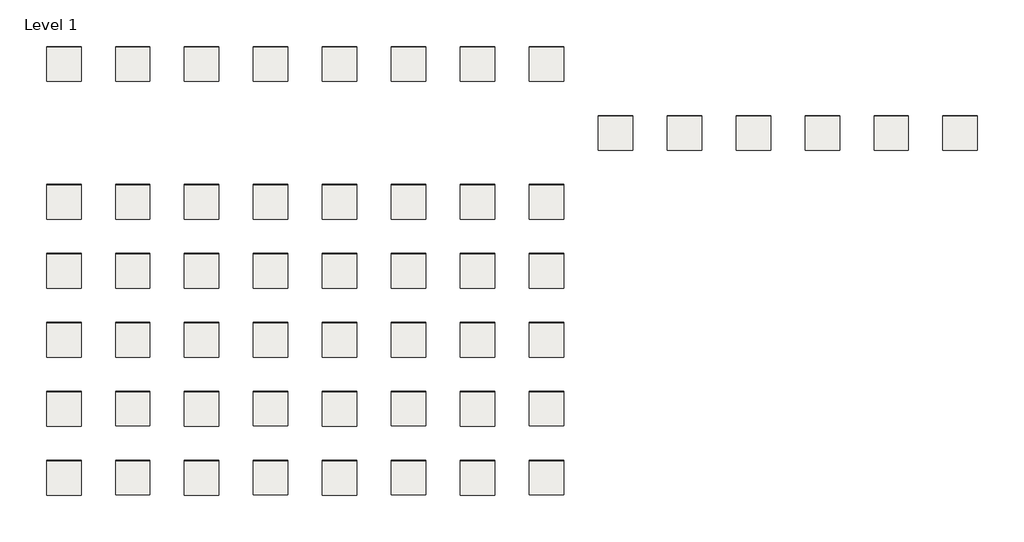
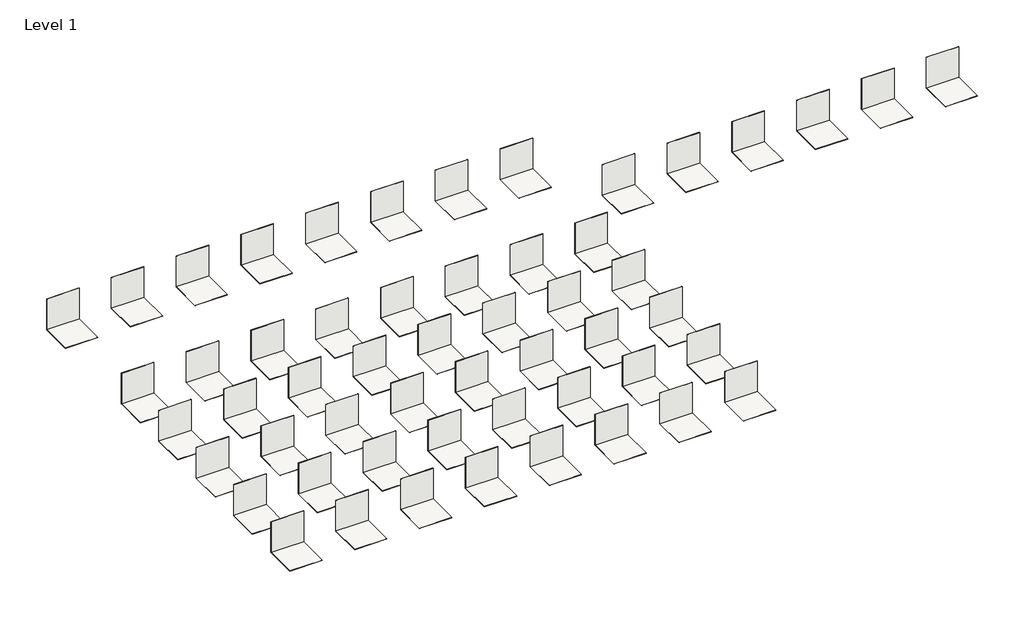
# One storey: 108 coverings.
"""IFC4 building model written with IfcOpenShell, lengths in millimetres."""

from ifc_helpers import new_model, si_unit, frame, origin, origin_with_axes, place, context, project, spatial, polyline, outline, extrude, element, save

model = new_model("IFC4")

# Units and contexts
model_context = context("Model", 3, world=origin())
ifc_project = project(units=[si_unit("LENGTHUNIT", "METRE", prefix="MILLI")], contexts=[model_context])

# Site, building, storey
site = spatial("IfcSite", under=ifc_project)
building = spatial("IfcBuilding", under=site)
storey = spatial("IfcBuildingStorey", under=building, Name="Level 1", Elevation=0.0)

# Coverings
placement = place(None, origin())
element("IfcCovering", 1, ObjectType="REVIGRES-LOCUS-BASE-9.7x9.7-SILK-ALLOY", at=placement, inside=storey, context=model_context, shape_type="SweptSolid", body=[
    extrude(outline(polyline([(2948.642714, 3103.8257974), (1948.642714, 3103.8257974), (1948.642714, 3112.3257974), (2948.642714, 3112.3257974), (2948.642714, 3103.8257974)])), origin_with_axes(), (0.0, 0.0, 1.0), 1000.0),
])
element("IfcCovering", 2, ObjectType="REVIGRES-LOCUS-BASE-9.7x9.7-SILK-BONE", at=placement, inside=storey, context=model_context, shape_type="SweptSolid", body=[
    extrude(outline(polyline([(6948.642714, 3103.8257974), (5948.642714, 3103.8257974), (5948.642714, 3112.3257974), (6948.642714, 3112.3257974), (6948.642714, 3103.8257974)])), origin_with_axes(), (0.0, 0.0, 1.0), 1000.0),
])
element("IfcCovering", 3, ObjectType="REVIGRES-LOCUS-BASE-9.7x9.7-SILK-GRIS", at=placement, inside=storey, context=model_context, shape_type="SweptSolid", body=[
    extrude(outline(polyline([(10948.642714, 3103.8257974), (9948.642714, 3103.8257974), (9948.642714, 3112.3257974), (10948.642714, 3112.3257974), (10948.642714, 3103.8257974)])), origin_with_axes(), (0.0, 0.0, 1.0), 1000.0),
])
element("IfcCovering", 4, ObjectType="REVIGRES-LOCUS-BASE-9.7x9.7-SILK-SMOG", at=placement, inside=storey, context=model_context, shape_type="SweptSolid", body=[
    extrude(outline(polyline([(14948.642714, 3103.8257974), (13948.642714, 3103.8257974), (13948.642714, 3112.3257974), (14948.642714, 3112.3257974), (14948.642714, 3103.8257974)])), origin_with_axes(), (0.0, 0.0, 1.0), 1000.0),
])
element("IfcCovering", 5, ObjectType="REVIGRES-LOCUS-BASE-9.7x9.7-SOFT GRIP-ALLOY", at=placement, inside=storey, context=model_context, shape_type="SweptSolid", body=[
    extrude(outline(polyline([(4948.642714, 3108.0757974), (4948.642714, 2108.0757974), (3948.642714, 2108.0757974), (3948.642714, 3108.0757974), (4948.642714, 3108.0757974)])), frame((0.0, 0.0, -8.5), z_axis=(0.0, 0.0, 1.0), x_axis=(1.0, 0.0, 0.0)), (0.0, 0.0, 1.0), 8.5),
])
element("IfcCovering", 6, ObjectType="REVIGRES-LOCUS-BASE-9.7x9.7-SOFT GRIP-ALLOY", at=placement, inside=storey, context=model_context, shape_type="SweptSolid", body=[
    extrude(outline(polyline([(4948.642714, 3103.8257974), (3948.642714, 3103.8257974), (3948.642714, 3112.3257974), (4948.642714, 3112.3257974), (4948.642714, 3103.8257974)])), origin_with_axes(), (0.0, 0.0, 1.0), 1000.0),
])
element("IfcCovering", 7, ObjectType="REVIGRES-LOCUS-BASE-9.7x9.7-SOFT GRIP-BONE", at=placement, inside=storey, context=model_context, shape_type="SweptSolid", body=[
    extrude(outline(polyline([(8948.642714, 3108.0757974), (8948.642714, 2108.0757974), (7948.642714, 2108.0757974), (7948.642714, 3108.0757974), (8948.642714, 3108.0757974)])), frame((0.0, 0.0, -8.5), z_axis=(0.0, 0.0, 1.0), x_axis=(1.0, 0.0, 0.0)), (0.0, 0.0, 1.0), 8.5),
])
element("IfcCovering", 8, ObjectType="REVIGRES-LOCUS-BASE-9.7x9.7-SOFT GRIP-BONE", at=placement, inside=storey, context=model_context, shape_type="SweptSolid", body=[
    extrude(outline(polyline([(8948.642714, 3103.8257974), (7948.642714, 3103.8257974), (7948.642714, 3112.3257974), (8948.642714, 3112.3257974), (8948.642714, 3103.8257974)])), origin_with_axes(), (0.0, 0.0, 1.0), 1000.0),
])
element("IfcCovering", 9, ObjectType="REVIGRES-LOCUS-BASE-9.7x9.7-SOFT GRIP-GRIS", at=placement, inside=storey, context=model_context, shape_type="SweptSolid", body=[
    extrude(outline(polyline([(12948.642714, 3108.0757974), (12948.642714, 2108.0757974), (11948.642714, 2108.0757974), (11948.642714, 3108.0757974), (12948.642714, 3108.0757974)])), frame((0.0, 0.0, -8.5), z_axis=(0.0, 0.0, 1.0), x_axis=(1.0, 0.0, 0.0)), (0.0, 0.0, 1.0), 8.5),
])
element("IfcCovering", 10, ObjectType="REVIGRES-LOCUS-BASE-9.7x9.7-SOFT GRIP-GRIS", at=placement, inside=storey, context=model_context, shape_type="SweptSolid", body=[
    extrude(outline(polyline([(12948.642714, 3103.8257974), (11948.642714, 3103.8257974), (11948.642714, 3112.3257974), (12948.642714, 3112.3257974), (12948.642714, 3103.8257974)])), origin_with_axes(), (0.0, 0.0, 1.0), 1000.0),
])
element("IfcCovering", 11, ObjectType="REVIGRES-LOCUS-BASE-9.7x9.7-SOFT GRIP-SMOG", at=placement, inside=storey, context=model_context, shape_type="SweptSolid", body=[
    extrude(outline(polyline([(16948.642714, 3108.0757974), (16948.642714, 2108.0757974), (15948.642714, 2108.0757974), (15948.642714, 3108.0757974), (16948.642714, 3108.0757974)])), frame((0.0, 0.0, -8.5), z_axis=(0.0, 0.0, 1.0), x_axis=(1.0, 0.0, 0.0)), (0.0, 0.0, 1.0), 8.5),
])
element("IfcCovering", 12, ObjectType="REVIGRES-LOCUS-BASE-9.7x9.7-SOFT GRIP-SMOG", at=placement, inside=storey, context=model_context, shape_type="SweptSolid", body=[
    extrude(outline(polyline([(16948.642714, 3103.8257974), (15948.642714, 3103.8257974), (15948.642714, 3112.3257974), (16948.642714, 3112.3257974), (16948.642714, 3103.8257974)])), origin_with_axes(), (0.0, 0.0, 1.0), 1000.0),
])
element("IfcCovering", 13, ObjectType="REVIGRES-LOCUS-BASE-9.7x9.7-SILK-ALLOY", at=placement, inside=storey, context=model_context, shape_type="SweptSolid", body=[
    extrude(outline(polyline([(2948.642714, 3103.8257974), (2948.642714, 2103.8257974), (1948.642714, 2103.8257974), (1948.642714, 3103.8257974), (2948.642714, 3103.8257974)])), frame((0.0, 0.0, -8.5), z_axis=(0.0, 0.0, 1.0), x_axis=(1.0, 0.0, 0.0)), (0.0, 0.0, 1.0), 8.5),
])
element("IfcCovering", 14, ObjectType="REVIGRES-LOCUS-BASE-9.7x9.7-SILK-BONE", at=placement, inside=storey, context=model_context, shape_type="SweptSolid", body=[
    extrude(outline(polyline([(6948.642714, 3103.8257974), (6948.642714, 2103.8257974), (5948.642714, 2103.8257974), (5948.642714, 3103.8257974), (6948.642714, 3103.8257974)])), frame((0.0, 0.0, -8.5), z_axis=(0.0, 0.0, 1.0), x_axis=(1.0, 0.0, 0.0)), (0.0, 0.0, 1.0), 8.5),
])
element("IfcCovering", 15, ObjectType="REVIGRES-LOCUS-BASE-9.7x9.7-SILK-GRIS", at=placement, inside=storey, context=model_context, shape_type="SweptSolid", body=[
    extrude(outline(polyline([(10948.642714, 3103.8257974), (10948.642714, 2103.8257974), (9948.642714, 2103.8257974), (9948.642714, 3103.8257974), (10948.642714, 3103.8257974)])), frame((0.0, 0.0, -8.5), z_axis=(0.0, 0.0, 1.0), x_axis=(1.0, 0.0, 0.0)), (0.0, 0.0, 1.0), 8.5),
])
element("IfcCovering", 16, ObjectType="REVIGRES-LOCUS-BASE-9.7x9.7-SILK-SMOG", at=placement, inside=storey, context=model_context, shape_type="SweptSolid", body=[
    extrude(outline(polyline([(14948.642714, 3103.8257974), (14948.642714, 2103.8257974), (13948.642714, 2103.8257974), (13948.642714, 3103.8257974), (14948.642714, 3103.8257974)])), frame((0.0, 0.0, -8.5), z_axis=(0.0, 0.0, 1.0), x_axis=(1.0, 0.0, 0.0)), (0.0, 0.0, 1.0), 8.5),
])
element("IfcCovering", 17, ObjectType="REVIGRES-LOCUS-BASE-29.5x59.2-SILK-ALLOY", at=placement, inside=storey, context=model_context, shape_type="SweptSolid", body=[
    extrude(outline(polyline([(2948.642714, -896.1742026), (1948.642714, -896.1742026), (1948.642714, -887.6742026), (2948.642714, -887.6742026), (2948.642714, -896.1742026)])), origin_with_axes(), (0.0, 0.0, 1.0), 1000.0),
])
element("IfcCovering", 18, ObjectType="REVIGRES-LOCUS-BASE-29.5x59.2-SOFT GRIP-ALLOY", at=placement, inside=storey, context=model_context, shape_type="SweptSolid", body=[
    extrude(outline(polyline([(4948.642714, -891.9242026), (4948.642714, -1891.9242026), (3948.642714, -1891.9242026), (3948.642714, -891.9242026), (4948.642714, -891.9242026)])), frame((0.0, 0.0, -8.5), z_axis=(0.0, 0.0, 1.0), x_axis=(1.0, 0.0, 0.0)), (0.0, 0.0, 1.0), 8.5),
])
element("IfcCovering", 19, ObjectType="REVIGRES-LOCUS-BASE-29.5x59.2-SOFT GRIP-ALLOY", at=placement, inside=storey, context=model_context, shape_type="SweptSolid", body=[
    extrude(outline(polyline([(4948.642714, -896.1742026), (3948.642714, -896.1742026), (3948.642714, -887.6742026), (4948.642714, -887.6742026), (4948.642714, -896.1742026)])), origin_with_axes(), (0.0, 0.0, 1.0), 1000.0),
])
element("IfcCovering", 20, ObjectType="REVIGRES-LOCUS-BASE-29.5x59.2-SILK-ALLOY", at=placement, inside=storey, context=model_context, shape_type="SweptSolid", body=[
    extrude(outline(polyline([(2948.642714, -896.1742026), (2948.642714, -1896.1742026), (1948.642714, -1896.1742026), (1948.642714, -896.1742026), (2948.642714, -896.1742026)])), frame((0.0, 0.0, -8.5), z_axis=(0.0, 0.0, 1.0), x_axis=(1.0, 0.0, 0.0)), (0.0, 0.0, 1.0), 8.5),
])
element("IfcCovering", 21, ObjectType="REVIGRES-LOCUS-BASE-59.2x59.2-SILK-ALLOY", at=placement, inside=storey, context=model_context, shape_type="SweptSolid", body=[
    extrude(outline(polyline([(2948.642714, -2896.1742026), (1948.642714, -2896.1742026), (1948.642714, -2887.6742026), (2948.642714, -2887.6742026), (2948.642714, -2896.1742026)])), origin_with_axes(), (0.0, 0.0, 1.0), 1000.0),
])
element("IfcCovering", 22, ObjectType="REVIGRES-LOCUS-BASE-59.2x59.2-SOFT GRIP-ALLOY", at=placement, inside=storey, context=model_context, shape_type="SweptSolid", body=[
    extrude(outline(polyline([(4948.642714, -2891.9242026), (4948.642714, -3891.9242026), (3948.642714, -3891.9242026), (3948.642714, -2891.9242026), (4948.642714, -2891.9242026)])), frame((0.0, 0.0, -8.5), z_axis=(0.0, 0.0, 1.0), x_axis=(1.0, 0.0, 0.0)), (0.0, 0.0, 1.0), 8.5),
])
element("IfcCovering", 23, ObjectType="REVIGRES-LOCUS-BASE-59.2x59.2-SOFT GRIP-ALLOY", at=placement, inside=storey, context=model_context, shape_type="SweptSolid", body=[
    extrude(outline(polyline([(4948.642714, -2896.1742026), (3948.642714, -2896.1742026), (3948.642714, -2887.6742026), (4948.642714, -2887.6742026), (4948.642714, -2896.1742026)])), origin_with_axes(), (0.0, 0.0, 1.0), 1000.0),
])
element("IfcCovering", 24, ObjectType="REVIGRES-LOCUS-BASE-59.2x59.2-SILK-ALLOY", at=placement, inside=storey, context=model_context, shape_type="SweptSolid", body=[
    extrude(outline(polyline([(2948.642714, -2896.1742026), (2948.642714, -3896.1742026), (1948.642714, -3896.1742026), (1948.642714, -2896.1742026), (2948.642714, -2896.1742026)])), frame((0.0, 0.0, -8.5), z_axis=(0.0, 0.0, 1.0), x_axis=(1.0, 0.0, 0.0)), (0.0, 0.0, 1.0), 8.5),
])
element("IfcCovering", 25, ObjectType="REVIGRES-LOCUS-BASE-44.35x88.9-SILK-ALLOY", at=placement, inside=storey, context=model_context, shape_type="SweptSolid", body=[
    extrude(outline(polyline([(2948.642714, -4897.1742026), (1948.642714, -4897.1742026), (1948.642714, -4886.6742026), (2948.642714, -4886.6742026), (2948.642714, -4897.1742026)])), origin_with_axes(), (0.0, 0.0, 1.0), 1000.0),
])
element("IfcCovering", 26, ObjectType="REVIGRES-LOCUS-BASE-44.35x88.9-SOFT GRIP-ALLOY", at=placement, inside=storey, context=model_context, shape_type="SweptSolid", body=[
    extrude(outline(polyline([(4948.642714, -4891.9242026), (4948.642714, -5891.9242026), (3948.642714, -5891.9242026), (3948.642714, -4891.9242026), (4948.642714, -4891.9242026)])), frame((0.0, 0.0, -10.5), z_axis=(0.0, 0.0, 1.0), x_axis=(1.0, 0.0, 0.0)), (0.0, 0.0, 1.0), 10.5),
])
element("IfcCovering", 27, ObjectType="REVIGRES-LOCUS-BASE-44.35x88.9-SOFT GRIP-ALLOY", at=placement, inside=storey, context=model_context, shape_type="SweptSolid", body=[
    extrude(outline(polyline([(4948.642714, -4897.1742026), (3948.642714, -4897.1742026), (3948.642714, -4886.6742026), (4948.642714, -4886.6742026), (4948.642714, -4897.1742026)])), origin_with_axes(), (0.0, 0.0, 1.0), 1000.0),
])
element("IfcCovering", 28, ObjectType="REVIGRES-LOCUS-BASE-44.35x88.9-SILK-ALLOY", at=placement, inside=storey, context=model_context, shape_type="SweptSolid", body=[
    extrude(outline(polyline([(2948.642714, -4897.1742026), (2948.642714, -5896.1742026), (1948.642714, -5896.1742026), (1948.642714, -4897.1742026), (2948.642714, -4897.1742026)])), frame((0.0, 0.0, -10.5), z_axis=(0.0, 0.0, 1.0), x_axis=(1.0, 0.0, 0.0)), (0.0, 0.0, 1.0), 10.5),
])
element("IfcCovering", 29, ObjectType="REVIGRES-LOCUS-BASE-29.5x59.2-SILK-BONE", at=placement, inside=storey, context=model_context, shape_type="SweptSolid", body=[
    extrude(outline(polyline([(6948.642714, -896.1742026), (5948.642714, -896.1742026), (5948.642714, -887.6742026), (6948.642714, -887.6742026), (6948.642714, -896.1742026)])), origin_with_axes(), (0.0, 0.0, 1.0), 1000.0),
])
element("IfcCovering", 30, ObjectType="REVIGRES-LOCUS-BASE-29.5x59.20-SOFT GRIP-BONE", at=placement, inside=storey, context=model_context, shape_type="SweptSolid", body=[
    extrude(outline(polyline([(8948.642714, -891.9242026), (8948.642714, -1891.9242026), (7948.642714, -1891.9242026), (7948.642714, -891.9242026), (8948.642714, -891.9242026)])), frame((0.0, 0.0, -8.5), z_axis=(0.0, 0.0, 1.0), x_axis=(1.0, 0.0, 0.0)), (0.0, 0.0, 1.0), 8.5),
])
element("IfcCovering", 31, ObjectType="REVIGRES-LOCUS-BASE-29.5x59.2-SOFT GRIP-BONE", at=placement, inside=storey, context=model_context, shape_type="SweptSolid", body=[
    extrude(outline(polyline([(8948.642714, -896.1742026), (7948.642714, -896.1742026), (7948.642714, -887.6742026), (8948.642714, -887.6742026), (8948.642714, -896.1742026)])), origin_with_axes(), (0.0, 0.0, 1.0), 1000.0),
])
element("IfcCovering", 32, ObjectType="REVIGRES-LOCUS-BASE-29.5x59.2-SILK-BONE", at=placement, inside=storey, context=model_context, shape_type="SweptSolid", body=[
    extrude(outline(polyline([(6948.642714, -896.1742026), (6948.642714, -1896.1742026), (5948.642714, -1896.1742026), (5948.642714, -896.1742026), (6948.642714, -896.1742026)])), frame((0.0, 0.0, -8.5), z_axis=(0.0, 0.0, 1.0), x_axis=(1.0, 0.0, 0.0)), (0.0, 0.0, 1.0), 8.5),
])
element("IfcCovering", 33, ObjectType="REVIGRES-LOCUS-BASE-59.2x59.2-SILK-BONE", at=placement, inside=storey, context=model_context, shape_type="SweptSolid", body=[
    extrude(outline(polyline([(6948.642714, -2896.1742026), (5948.642714, -2896.1742026), (5948.642714, -2887.6742026), (6948.642714, -2887.6742026), (6948.642714, -2896.1742026)])), origin_with_axes(), (0.0, 0.0, 1.0), 1000.0),
])
element("IfcCovering", 34, ObjectType="REVIGRES-LOCUS-BASE-59.2x59.2-SOFT GRIP-BONE", at=placement, inside=storey, context=model_context, shape_type="SweptSolid", body=[
    extrude(outline(polyline([(8948.642714, -2891.9242026), (8948.642714, -3891.9242026), (7948.642714, -3891.9242026), (7948.642714, -2891.9242026), (8948.642714, -2891.9242026)])), frame((0.0, 0.0, -8.5), z_axis=(0.0, 0.0, 1.0), x_axis=(1.0, 0.0, 0.0)), (0.0, 0.0, 1.0), 8.5),
])
element("IfcCovering", 35, ObjectType="REVIGRES-LOCUS-BASE-59.2x59.2-SOFT GRIP-BONE", at=placement, inside=storey, context=model_context, shape_type="SweptSolid", body=[
    extrude(outline(polyline([(8948.642714, -2896.1742026), (7948.642714, -2896.1742026), (7948.642714, -2887.6742026), (8948.642714, -2887.6742026), (8948.642714, -2896.1742026)])), origin_with_axes(), (0.0, 0.0, 1.0), 1000.0),
])
element("IfcCovering", 36, ObjectType="REVIGRES-LOCUS-BASE-59.2x59.2-SILK-BONE", at=placement, inside=storey, context=model_context, shape_type="SweptSolid", body=[
    extrude(outline(polyline([(6948.642714, -2896.1742026), (6948.642714, -3896.1742026), (5948.642714, -3896.1742026), (5948.642714, -2896.1742026), (6948.642714, -2896.1742026)])), frame((0.0, 0.0, -8.5), z_axis=(0.0, 0.0, 1.0), x_axis=(1.0, 0.0, 0.0)), (0.0, 0.0, 1.0), 8.5),
])
element("IfcCovering", 37, ObjectType="REVIGRES-LOCUS-BASE-44.35x88.9-SILK-BONE", at=placement, inside=storey, context=model_context, shape_type="SweptSolid", body=[
    extrude(outline(polyline([(6948.642714, -4897.1742026), (5948.642714, -4897.1742026), (5948.642714, -4886.6742026), (6948.642714, -4886.6742026), (6948.642714, -4897.1742026)])), origin_with_axes(), (0.0, 0.0, 1.0), 1000.0),
])
element("IfcCovering", 38, ObjectType="REVIGRES-LOCUS-BASE-44.35x88.9-SOFT GRIP-BONE", at=placement, inside=storey, context=model_context, shape_type="SweptSolid", body=[
    extrude(outline(polyline([(8948.642714, -4891.9242026), (8948.642714, -5891.9242026), (7948.642714, -5891.9242026), (7948.642714, -4891.9242026), (8948.642714, -4891.9242026)])), frame((0.0, 0.0, -10.5), z_axis=(0.0, 0.0, 1.0), x_axis=(1.0, 0.0, 0.0)), (0.0, 0.0, 1.0), 10.5),
])
element("IfcCovering", 39, ObjectType="REVIGRES-LOCUS-BASE-44.35x88.9-SOFT GRIP-BONE", at=placement, inside=storey, context=model_context, shape_type="SweptSolid", body=[
    extrude(outline(polyline([(8948.642714, -4897.1742026), (7948.642714, -4897.1742026), (7948.642714, -4886.6742026), (8948.642714, -4886.6742026), (8948.642714, -4897.1742026)])), origin_with_axes(), (0.0, 0.0, 1.0), 1000.0),
])
element("IfcCovering", 40, ObjectType="REVIGRES-LOCUS-BASE-44.35x88.9-SILK-BONE", at=placement, inside=storey, context=model_context, shape_type="SweptSolid", body=[
    extrude(outline(polyline([(6948.642714, -4897.1742026), (6948.642714, -5896.1742026), (5948.642714, -5896.1742026), (5948.642714, -4897.1742026), (6948.642714, -4897.1742026)])), frame((0.0, 0.0, -10.5), z_axis=(0.0, 0.0, 1.0), x_axis=(1.0, 0.0, 0.0)), (0.0, 0.0, 1.0), 10.5),
])
element("IfcCovering", 41, ObjectType="REVIGRES-LOCUS-BASE-29.5x59.2-SILK-GRIS", at=placement, inside=storey, context=model_context, shape_type="SweptSolid", body=[
    extrude(outline(polyline([(10948.642714, -896.1742026), (9948.642714, -896.1742026), (9948.642714, -887.6742026), (10948.642714, -887.6742026), (10948.642714, -896.1742026)])), origin_with_axes(), (0.0, 0.0, 1.0), 1000.0),
])
element("IfcCovering", 42, ObjectType="REVIGRES-LOCUS-BASE-29.5x59.20-SOFT GRIP-GRIS", at=placement, inside=storey, context=model_context, shape_type="SweptSolid", body=[
    extrude(outline(polyline([(12948.642714, -891.9242026), (12948.642714, -1891.9242026), (11948.642714, -1891.9242026), (11948.642714, -891.9242026), (12948.642714, -891.9242026)])), frame((0.0, 0.0, -8.5), z_axis=(0.0, 0.0, 1.0), x_axis=(1.0, 0.0, 0.0)), (0.0, 0.0, 1.0), 8.5),
])
element("IfcCovering", 43, ObjectType="REVIGRES-LOCUS-BASE-29.5x59.2-SOFT GRIP-GRIS", at=placement, inside=storey, context=model_context, shape_type="SweptSolid", body=[
    extrude(outline(polyline([(12948.642714, -896.1742026), (11948.642714, -896.1742026), (11948.642714, -887.6742026), (12948.642714, -887.6742026), (12948.642714, -896.1742026)])), origin_with_axes(), (0.0, 0.0, 1.0), 1000.0),
])
element("IfcCovering", 44, ObjectType="REVIGRES-LOCUS-BASE-29.5x59.2-SILK-GRIS", at=placement, inside=storey, context=model_context, shape_type="SweptSolid", body=[
    extrude(outline(polyline([(10948.642714, -896.1742026), (10948.642714, -1896.1742026), (9948.642714, -1896.1742026), (9948.642714, -896.1742026), (10948.642714, -896.1742026)])), frame((0.0, 0.0, -8.5), z_axis=(0.0, 0.0, 1.0), x_axis=(1.0, 0.0, 0.0)), (0.0, 0.0, 1.0), 8.5),
])
element("IfcCovering", 45, ObjectType="REVIGRES-LOCUS-BASE-59.2x59.2-SILK-GRIS", at=placement, inside=storey, context=model_context, shape_type="SweptSolid", body=[
    extrude(outline(polyline([(10948.642714, -2896.1742026), (9948.642714, -2896.1742026), (9948.642714, -2887.6742026), (10948.642714, -2887.6742026), (10948.642714, -2896.1742026)])), origin_with_axes(), (0.0, 0.0, 1.0), 1000.0),
])
element("IfcCovering", 46, ObjectType="REVIGRES-LOCUS-BASE-59.2x59.2-SOFT GRIP-GRIS", at=placement, inside=storey, context=model_context, shape_type="SweptSolid", body=[
    extrude(outline(polyline([(12948.642714, -2891.9242026), (12948.642714, -3891.9242026), (11948.642714, -3891.9242026), (11948.642714, -2891.9242026), (12948.642714, -2891.9242026)])), frame((0.0, 0.0, -8.5), z_axis=(0.0, 0.0, 1.0), x_axis=(1.0, 0.0, 0.0)), (0.0, 0.0, 1.0), 8.5),
])
element("IfcCovering", 47, ObjectType="REVIGRES-LOCUS-BASE-59.2x59.2-SOFT GRIP-GRIS", at=placement, inside=storey, context=model_context, shape_type="SweptSolid", body=[
    extrude(outline(polyline([(12948.642714, -2896.1742026), (11948.642714, -2896.1742026), (11948.642714, -2887.6742026), (12948.642714, -2887.6742026), (12948.642714, -2896.1742026)])), origin_with_axes(), (0.0, 0.0, 1.0), 1000.0),
])
element("IfcCovering", 48, ObjectType="REVIGRES-LOCUS-BASE-59.2x59.2-SILK-GRIS", at=placement, inside=storey, context=model_context, shape_type="SweptSolid", body=[
    extrude(outline(polyline([(10948.642714, -2896.1742026), (10948.642714, -3896.1742026), (9948.642714, -3896.1742026), (9948.642714, -2896.1742026), (10948.642714, -2896.1742026)])), frame((0.0, 0.0, -8.5), z_axis=(0.0, 0.0, 1.0), x_axis=(1.0, 0.0, 0.0)), (0.0, 0.0, 1.0), 8.5),
])
element("IfcCovering", 49, ObjectType="REVIGRES-LOCUS-BASE-44.35x88.9-SILK-GRIS", at=placement, inside=storey, context=model_context, shape_type="SweptSolid", body=[
    extrude(outline(polyline([(10948.642714, -4897.1742026), (9948.642714, -4897.1742026), (9948.642714, -4886.6742026), (10948.642714, -4886.6742026), (10948.642714, -4897.1742026)])), origin_with_axes(), (0.0, 0.0, 1.0), 1000.0),
])
element("IfcCovering", 50, ObjectType="REVIGRES-LOCUS-BASE-44.35x88.9-SOFT GRIP-GRIS", at=placement, inside=storey, context=model_context, shape_type="SweptSolid", body=[
    extrude(outline(polyline([(12948.642714, -4891.9242026), (12948.642714, -5891.9242026), (11948.642714, -5891.9242026), (11948.642714, -4891.9242026), (12948.642714, -4891.9242026)])), frame((0.0, 0.0, -10.5), z_axis=(0.0, 0.0, 1.0), x_axis=(1.0, 0.0, 0.0)), (0.0, 0.0, 1.0), 10.5),
])
element("IfcCovering", 51, ObjectType="REVIGRES-LOCUS-BASE-44.35x88.9-SOFT GRIP-GRIS", at=placement, inside=storey, context=model_context, shape_type="SweptSolid", body=[
    extrude(outline(polyline([(12948.642714, -4897.1742026), (11948.642714, -4897.1742026), (11948.642714, -4886.6742026), (12948.642714, -4886.6742026), (12948.642714, -4897.1742026)])), origin_with_axes(), (0.0, 0.0, 1.0), 1000.0),
])
element("IfcCovering", 52, ObjectType="REVIGRES-LOCUS-BASE-44.35x88.9-SILK-GRIS", at=placement, inside=storey, context=model_context, shape_type="SweptSolid", body=[
    extrude(outline(polyline([(10948.642714, -4897.1742026), (10948.642714, -5896.1742026), (9948.642714, -5896.1742026), (9948.642714, -4897.1742026), (10948.642714, -4897.1742026)])), frame((0.0, 0.0, -10.5), z_axis=(0.0, 0.0, 1.0), x_axis=(1.0, 0.0, 0.0)), (0.0, 0.0, 1.0), 10.5),
])
element("IfcCovering", 53, ObjectType="REVIGRES-LOCUS-BASE-29.5x59.2-SILK-SMOG", at=placement, inside=storey, context=model_context, shape_type="SweptSolid", body=[
    extrude(outline(polyline([(14948.642714, -896.1742026), (13948.642714, -896.1742026), (13948.642714, -887.6742026), (14948.642714, -887.6742026), (14948.642714, -896.1742026)])), origin_with_axes(), (0.0, 0.0, 1.0), 1000.0),
])
element("IfcCovering", 54, ObjectType="REVIGRES-LOCUS-BASE-29.5x59.2-SOFT GRIP-SMOG", at=placement, inside=storey, context=model_context, shape_type="SweptSolid", body=[
    extrude(outline(polyline([(16948.642714, -891.9242026), (16948.642714, -1891.9242026), (15948.642714, -1891.9242026), (15948.642714, -891.9242026), (16948.642714, -891.9242026)])), frame((0.0, 0.0, -8.5), z_axis=(0.0, 0.0, 1.0), x_axis=(1.0, 0.0, 0.0)), (0.0, 0.0, 1.0), 8.5),
])
element("IfcCovering", 55, ObjectType="REVIGRES-LOCUS-BASE-29.5x59.2-SOFT GRIP-SMOG", at=placement, inside=storey, context=model_context, shape_type="SweptSolid", body=[
    extrude(outline(polyline([(16948.642714, -896.1742026), (15948.642714, -896.1742026), (15948.642714, -887.6742026), (16948.642714, -887.6742026), (16948.642714, -896.1742026)])), origin_with_axes(), (0.0, 0.0, 1.0), 1000.0),
])
element("IfcCovering", 56, ObjectType="REVIGRES-LOCUS-BASE-29.5x59.2-SILK-SMOG", at=placement, inside=storey, context=model_context, shape_type="SweptSolid", body=[
    extrude(outline(polyline([(14948.642714, -896.1742026), (14948.642714, -1896.1742026), (13948.642714, -1896.1742026), (13948.642714, -896.1742026), (14948.642714, -896.1742026)])), frame((0.0, 0.0, -8.5), z_axis=(0.0, 0.0, 1.0), x_axis=(1.0, 0.0, 0.0)), (0.0, 0.0, 1.0), 8.5),
])
element("IfcCovering", 57, ObjectType="REVIGRES-LOCUS-BASE-59.2x59.2-SILK-SMOG", at=placement, inside=storey, context=model_context, shape_type="SweptSolid", body=[
    extrude(outline(polyline([(14948.642714, -2896.1742026), (13948.642714, -2896.1742026), (13948.642714, -2887.6742026), (14948.642714, -2887.6742026), (14948.642714, -2896.1742026)])), origin_with_axes(), (0.0, 0.0, 1.0), 1000.0),
])
element("IfcCovering", 58, ObjectType="REVIGRES-LOCUS-BASE-59.2x59.2-SOFT GRIP-SMOG", at=placement, inside=storey, context=model_context, shape_type="SweptSolid", body=[
    extrude(outline(polyline([(16948.642714, -2891.9242026), (16948.642714, -3891.9242026), (15948.642714, -3891.9242026), (15948.642714, -2891.9242026), (16948.642714, -2891.9242026)])), frame((0.0, 0.0, -8.5), z_axis=(0.0, 0.0, 1.0), x_axis=(1.0, 0.0, 0.0)), (0.0, 0.0, 1.0), 8.5),
])
element("IfcCovering", 59, ObjectType="REVIGRES-LOCUS-BASE-59.2x59.2-SOFT GRIP-SMOG", at=placement, inside=storey, context=model_context, shape_type="SweptSolid", body=[
    extrude(outline(polyline([(16948.642714, -2896.1742026), (15948.642714, -2896.1742026), (15948.642714, -2887.6742026), (16948.642714, -2887.6742026), (16948.642714, -2896.1742026)])), origin_with_axes(), (0.0, 0.0, 1.0), 1000.0),
])
element("IfcCovering", 60, ObjectType="REVIGRES-LOCUS-BASE-59.2x59.2-SILK-SMOG", at=placement, inside=storey, context=model_context, shape_type="SweptSolid", body=[
    extrude(outline(polyline([(14948.642714, -2896.1742026), (14948.642714, -3896.1742026), (13948.642714, -3896.1742026), (13948.642714, -2896.1742026), (14948.642714, -2896.1742026)])), frame((0.0, 0.0, -8.5), z_axis=(0.0, 0.0, 1.0), x_axis=(1.0, 0.0, 0.0)), (0.0, 0.0, 1.0), 8.5),
])
element("IfcCovering", 61, ObjectType="REVIGRES-LOCUS-BASE-44.35x88.9-SILK-SMOG", at=placement, inside=storey, context=model_context, shape_type="SweptSolid", body=[
    extrude(outline(polyline([(14948.642714, -4897.1742026), (13948.642714, -4897.1742026), (13948.642714, -4886.6742026), (14948.642714, -4886.6742026), (14948.642714, -4897.1742026)])), origin_with_axes(), (0.0, 0.0, 1.0), 1000.0),
])
element("IfcCovering", 62, ObjectType="REVIGRES-LOCUS-BASE-44.35x88.9-SOFT GRIP-SMOG", at=placement, inside=storey, context=model_context, shape_type="SweptSolid", body=[
    extrude(outline(polyline([(16948.642714, -4891.9242026), (16948.642714, -5891.9242026), (15948.642714, -5891.9242026), (15948.642714, -4891.9242026), (16948.642714, -4891.9242026)])), frame((0.0, 0.0, -10.5), z_axis=(0.0, 0.0, 1.0), x_axis=(1.0, 0.0, 0.0)), (0.0, 0.0, 1.0), 10.5),
])
element("IfcCovering", 63, ObjectType="REVIGRES-LOCUS-BASE-44.35x88.9-SOFT GRIP-SMOG", at=placement, inside=storey, context=model_context, shape_type="SweptSolid", body=[
    extrude(outline(polyline([(16948.642714, -4897.1742026), (15948.642714, -4897.1742026), (15948.642714, -4886.6742026), (16948.642714, -4886.6742026), (16948.642714, -4897.1742026)])), origin_with_axes(), (0.0, 0.0, 1.0), 1000.0),
])
element("IfcCovering", 64, ObjectType="REVIGRES-LOCUS-BASE-44.35x88.9-SILK-SMOG", at=placement, inside=storey, context=model_context, shape_type="SweptSolid", body=[
    extrude(outline(polyline([(14948.642714, -4897.1742026), (14948.642714, -5896.1742026), (13948.642714, -5896.1742026), (13948.642714, -4897.1742026), (14948.642714, -4897.1742026)])), frame((0.0, 0.0, -10.5), z_axis=(0.0, 0.0, 1.0), x_axis=(1.0, 0.0, 0.0)), (0.0, 0.0, 1.0), 10.5),
])
element("IfcCovering", 65, ObjectType="REVIGRES-LOCUS-BASE-29.5x29.5-SILK-QUILT BONE", at=placement, inside=storey, context=model_context, shape_type="SweptSolid", body=[
    extrude(outline(polyline([(18948.642714, 1103.8257974), (17948.642714, 1103.8257974), (17948.642714, 1112.3257974), (18948.642714, 1112.3257974), (18948.642714, 1103.8257974)])), origin_with_axes(), (0.0, 0.0, 1.0), 1000.0),
])
element("IfcCovering", 66, ObjectType="REVIGRES-LOCUS-BASE-29.5x29.5-SILK-QUILT GREEN", at=placement, inside=storey, context=model_context, shape_type="SweptSolid", body=[
    extrude(outline(polyline([(22948.642714, 1103.8257974), (21948.642714, 1103.8257974), (21948.642714, 1112.3257974), (22948.642714, 1112.3257974), (22948.642714, 1103.8257974)])), origin_with_axes(), (0.0, 0.0, 1.0), 1000.0),
])
element("IfcCovering", 67, ObjectType="REVIGRES-LOCUS-BASE-29.5x29.5-SILK-QUILT GRIS", at=placement, inside=storey, context=model_context, shape_type="SweptSolid", body=[
    extrude(outline(polyline([(26948.642714, 1103.8257974), (25948.642714, 1103.8257974), (25948.642714, 1112.3257974), (26948.642714, 1112.3257974), (26948.642714, 1103.8257974)])), origin_with_axes(), (0.0, 0.0, 1.0), 1000.0),
])
element("IfcCovering", 68, ObjectType="REVIGRES-LOCUS-BASE-29.5x29.5-SOFT GRIP-QUILT BONE", at=placement, inside=storey, context=model_context, shape_type="SweptSolid", body=[
    extrude(outline(polyline([(20948.642714, 1108.0757974), (20948.642714, 108.0757974), (19948.642714, 108.0757974), (19948.642714, 1108.0757974), (20948.642714, 1108.0757974)])), frame((0.0, 0.0, -8.5), z_axis=(0.0, 0.0, 1.0), x_axis=(1.0, 0.0, 0.0)), (0.0, 0.0, 1.0), 8.5),
])
element("IfcCovering", 69, ObjectType="REVIGRES-LOCUS-BASE-29.5x29.5-SOFT GRIP-QUILT BONE", at=placement, inside=storey, context=model_context, shape_type="SweptSolid", body=[
    extrude(outline(polyline([(20948.642714, 1103.8257974), (19948.642714, 1103.8257974), (19948.642714, 1112.3257974), (20948.642714, 1112.3257974), (20948.642714, 1103.8257974)])), origin_with_axes(), (0.0, 0.0, 1.0), 1000.0),
])
element("IfcCovering", 70, ObjectType="REVIGRES-LOCUS-BASE-29.5x29.5-SOFT GRIP-QUILT GREEN", at=placement, inside=storey, context=model_context, shape_type="SweptSolid", body=[
    extrude(outline(polyline([(24948.642714, 1108.0757974), (24948.642714, 108.0757974), (23948.642714, 108.0757974), (23948.642714, 1108.0757974), (24948.642714, 1108.0757974)])), frame((0.0, 0.0, -8.5), z_axis=(0.0, 0.0, 1.0), x_axis=(1.0, 0.0, 0.0)), (0.0, 0.0, 1.0), 8.5),
])
element("IfcCovering", 71, ObjectType="REVIGRES-LOCUS-BASE-29.5x29.5-SOFT GRIP-QUILT GREEN", at=placement, inside=storey, context=model_context, shape_type="SweptSolid", body=[
    extrude(outline(polyline([(24948.642714, 1103.8257974), (23948.642714, 1103.8257974), (23948.642714, 1112.3257974), (24948.642714, 1112.3257974), (24948.642714, 1103.8257974)])), origin_with_axes(), (0.0, 0.0, 1.0), 1000.0),
])
element("IfcCovering", 72, ObjectType="REVIGRES-LOCUS-BASE-29.5x29.5-SOFT GRIP-QUILT GRIS", at=placement, inside=storey, context=model_context, shape_type="SweptSolid", body=[
    extrude(outline(polyline([(28948.642714, 1108.0757974), (28948.642714, 108.0757974), (27948.642714, 108.0757974), (27948.642714, 1108.0757974), (28948.642714, 1108.0757974)])), frame((0.0, 0.0, -8.5), z_axis=(0.0, 0.0, 1.0), x_axis=(1.0, 0.0, 0.0)), (0.0, 0.0, 1.0), 8.5),
])
element("IfcCovering", 73, ObjectType="REVIGRES-LOCUS-BASE-29.5x29.5-SOFT GRIP-QUILT GRIS", at=placement, inside=storey, context=model_context, shape_type="SweptSolid", body=[
    extrude(outline(polyline([(28948.642714, 1103.8257974), (27948.642714, 1103.8257974), (27948.642714, 1112.3257974), (28948.642714, 1112.3257974), (28948.642714, 1103.8257974)])), origin_with_axes(), (0.0, 0.0, 1.0), 1000.0),
])
element("IfcCovering", 74, ObjectType="REVIGRES-LOCUS-BASE-29.5x29.5-SILK-QUILT GREEN", at=placement, inside=storey, context=model_context, shape_type="SweptSolid", body=[
    extrude(outline(polyline([(18948.642714, 1103.8257974), (18948.642714, 103.8257974), (17948.642714, 103.8257974), (17948.642714, 1103.8257974), (18948.642714, 1103.8257974)])), frame((0.0, 0.0, -8.5), z_axis=(0.0, 0.0, 1.0), x_axis=(1.0, 0.0, 0.0)), (0.0, 0.0, 1.0), 8.5),
])
element("IfcCovering", 75, ObjectType="REVIGRES-LOCUS-BASE-29.5x29.5-SILK-QUILT GREEN", at=placement, inside=storey, context=model_context, shape_type="SweptSolid", body=[
    extrude(outline(polyline([(22948.642714, 1103.8257974), (22948.642714, 103.8257974), (21948.642714, 103.8257974), (21948.642714, 1103.8257974), (22948.642714, 1103.8257974)])), frame((0.0, 0.0, -8.5), z_axis=(0.0, 0.0, 1.0), x_axis=(1.0, 0.0, 0.0)), (0.0, 0.0, 1.0), 8.5),
])
element("IfcCovering", 76, ObjectType="REVIGRES-LOCUS-BASE-29.5x29.5-SILK-QUILT GRIS", at=placement, inside=storey, context=model_context, shape_type="SweptSolid", body=[
    extrude(outline(polyline([(26948.642714, 1103.8257974), (26948.642714, 103.8257974), (25948.642714, 103.8257974), (25948.642714, 1103.8257974), (26948.642714, 1103.8257974)])), frame((0.0, 0.0, -8.5), z_axis=(0.0, 0.0, 1.0), x_axis=(1.0, 0.0, 0.0)), (0.0, 0.0, 1.0), 8.5),
])
element("IfcCovering", 77, ObjectType="REVIGRES-LOCUS-BASE-88.9x88.9-SILK-ALLOY", at=placement, inside=storey, context=model_context, shape_type="SweptSolid", body=[
    extrude(outline(polyline([(2948.642714, -6897.1742026), (1948.642714, -6897.1742026), (1948.642714, -6886.6742026), (2948.642714, -6886.6742026), (2948.642714, -6897.1742026)])), origin_with_axes(), (0.0, 0.0, 1.0), 1000.0),
])
element("IfcCovering", 78, ObjectType="REVIGRES-LOCUS-BASE-88.9x88.90-SOFT GRIP-ALLOY", at=placement, inside=storey, context=model_context, shape_type="SweptSolid", body=[
    extrude(outline(polyline([(4948.642714, -6891.9242026), (4948.642714, -7891.9242026), (3948.642714, -7891.9242026), (3948.642714, -6891.9242026), (4948.642714, -6891.9242026)])), frame((0.0, 0.0, -10.5), z_axis=(0.0, 0.0, 1.0), x_axis=(1.0, 0.0, 0.0)), (0.0, 0.0, 1.0), 10.5),
])
element("IfcCovering", 79, ObjectType="REVIGRES-LOCUS-BASE-88.9x88.9-SOFT GRIP-ALLOY", at=placement, inside=storey, context=model_context, shape_type="SweptSolid", body=[
    extrude(outline(polyline([(4948.642714, -6897.1742026), (3948.642714, -6897.1742026), (3948.642714, -6886.6742026), (4948.642714, -6886.6742026), (4948.642714, -6897.1742026)])), origin_with_axes(), (0.0, 0.0, 1.0), 1000.0),
])
element("IfcCovering", 80, ObjectType="REVIGRES-LOCUS-BASE-88.9x88.9-SILK-ALLOY", at=placement, inside=storey, context=model_context, shape_type="SweptSolid", body=[
    extrude(outline(polyline([(2948.642714, -6897.1742026), (2948.642714, -7896.8242026), (1948.642714, -7896.8242026), (1948.642714, -6897.1742026), (2948.642714, -6897.1742026)])), frame((0.0, 0.0, -10.5), z_axis=(0.0, 0.0, 1.0), x_axis=(1.0, 0.0, 0.0)), (0.0, 0.0, 1.0), 10.5),
])
element("IfcCovering", 81, ObjectType="REVIGRES-LOCUS-BASE-88.9x88.9-SILK-BONE", at=placement, inside=storey, context=model_context, shape_type="SweptSolid", body=[
    extrude(outline(polyline([(6948.642714, -6897.1742026), (5948.642714, -6897.1742026), (5948.642714, -6886.6742026), (6948.642714, -6886.6742026), (6948.642714, -6897.1742026)])), origin_with_axes(), (0.0, 0.0, 1.0), 1000.0),
])
element("IfcCovering", 82, ObjectType="REVIGRES-LOCUS-BASE-88.9x88.9-SOFT GRIP-BONE", at=placement, inside=storey, context=model_context, shape_type="SweptSolid", body=[
    extrude(outline(polyline([(8948.642714, -6891.9242026), (8948.642714, -7891.9242026), (7948.642714, -7891.9242026), (7948.642714, -6891.9242026), (8948.642714, -6891.9242026)])), frame((0.0, 0.0, -10.5), z_axis=(0.0, 0.0, 1.0), x_axis=(1.0, 0.0, 0.0)), (0.0, 0.0, 1.0), 10.5),
])
element("IfcCovering", 83, ObjectType="REVIGRES-LOCUS-BASE-88.9x88.9-SOFT GRIP-BONE", at=placement, inside=storey, context=model_context, shape_type="SweptSolid", body=[
    extrude(outline(polyline([(8948.642714, -6897.1742026), (7948.642714, -6897.1742026), (7948.642714, -6886.6742026), (8948.642714, -6886.6742026), (8948.642714, -6897.1742026)])), origin_with_axes(), (0.0, 0.0, 1.0), 1000.0),
])
element("IfcCovering", 84, ObjectType="REVIGRES-LOCUS-BASE-88.9x88.9-SILK-BONE", at=placement, inside=storey, context=model_context, shape_type="SweptSolid", body=[
    extrude(outline(polyline([(6948.642714, -6897.1742026), (6948.642714, -7896.8242026), (5948.642714, -7896.8242026), (5948.642714, -6897.1742026), (6948.642714, -6897.1742026)])), frame((0.0, 0.0, -10.5), z_axis=(0.0, 0.0, 1.0), x_axis=(1.0, 0.0, 0.0)), (0.0, 0.0, 1.0), 10.5),
])
element("IfcCovering", 85, ObjectType="REVIGRES-LOCUS-BASE-88.9x88.9-SILK-GRIS", at=placement, inside=storey, context=model_context, shape_type="SweptSolid", body=[
    extrude(outline(polyline([(10948.642714, -6897.1742026), (9948.642714, -6897.1742026), (9948.642714, -6886.6742026), (10948.642714, -6886.6742026), (10948.642714, -6897.1742026)])), origin_with_axes(), (0.0, 0.0, 1.0), 1000.0),
])
element("IfcCovering", 86, ObjectType="REVIGRES-LOCUS-BASE-88.9x88.90-SOFT GRIP-GRIS", at=placement, inside=storey, context=model_context, shape_type="SweptSolid", body=[
    extrude(outline(polyline([(12948.642714, -6891.9242026), (12948.642714, -7891.9242026), (11948.642714, -7891.9242026), (11948.642714, -6891.9242026), (12948.642714, -6891.9242026)])), frame((0.0, 0.0, -10.5), z_axis=(0.0, 0.0, 1.0), x_axis=(1.0, 0.0, 0.0)), (0.0, 0.0, 1.0), 10.5),
])
element("IfcCovering", 87, ObjectType="REVIGRES-LOCUS-BASE-88.9x88.9-SOFT GRIP-GRIS", at=placement, inside=storey, context=model_context, shape_type="SweptSolid", body=[
    extrude(outline(polyline([(12948.642714, -6897.1742026), (11948.642714, -6897.1742026), (11948.642714, -6886.6742026), (12948.642714, -6886.6742026), (12948.642714, -6897.1742026)])), origin_with_axes(), (0.0, 0.0, 1.0), 1000.0),
])
element("IfcCovering", 88, ObjectType="REVIGRES-LOCUS-BASE-88.9x88.9-SILK-GRIS", at=placement, inside=storey, context=model_context, shape_type="SweptSolid", body=[
    extrude(outline(polyline([(10948.642714, -6897.1742026), (10948.642714, -7896.8242026), (9948.642714, -7896.8242026), (9948.642714, -6897.1742026), (10948.642714, -6897.1742026)])), frame((0.0, 0.0, -10.5), z_axis=(0.0, 0.0, 1.0), x_axis=(1.0, 0.0, 0.0)), (0.0, 0.0, 1.0), 10.5),
])
element("IfcCovering", 89, ObjectType="REVIGRES-LOCUS-BASE-88.9x88.9-SILK-SMOG", at=placement, inside=storey, context=model_context, shape_type="SweptSolid", body=[
    extrude(outline(polyline([(14948.642714, -6897.1742026), (13948.642714, -6897.1742026), (13948.642714, -6886.6742026), (14948.642714, -6886.6742026), (14948.642714, -6897.1742026)])), origin_with_axes(), (0.0, 0.0, 1.0), 1000.0),
])
element("IfcCovering", 90, ObjectType="REVIGRES-LOCUS-BASE-88.9x88.9-SOFT GRIP-SMOG", at=placement, inside=storey, context=model_context, shape_type="SweptSolid", body=[
    extrude(outline(polyline([(16948.642714, -6891.9242026), (16948.642714, -7891.9242026), (15948.642714, -7891.9242026), (15948.642714, -6891.9242026), (16948.642714, -6891.9242026)])), frame((0.0, 0.0, -10.5), z_axis=(0.0, 0.0, 1.0), x_axis=(1.0, 0.0, 0.0)), (0.0, 0.0, 1.0), 10.5),
])
element("IfcCovering", 91, ObjectType="REVIGRES-LOCUS-BASE-88.9x88.9-SOFT GRIP-SMOG", at=placement, inside=storey, context=model_context, shape_type="SweptSolid", body=[
    extrude(outline(polyline([(16948.642714, -6897.1742026), (15948.642714, -6897.1742026), (15948.642714, -6886.6742026), (16948.642714, -6886.6742026), (16948.642714, -6897.1742026)])), origin_with_axes(), (0.0, 0.0, 1.0), 1000.0),
])
element("IfcCovering", 92, ObjectType="REVIGRES-LOCUS-BASE-88.9x88.9-SILK-SMOG", at=placement, inside=storey, context=model_context, shape_type="SweptSolid", body=[
    extrude(outline(polyline([(14948.642714, -6897.1742026), (14948.642714, -7896.8242026), (13948.642714, -7896.8242026), (13948.642714, -6897.1742026), (14948.642714, -6897.1742026)])), frame((0.0, 0.0, -10.5), z_axis=(0.0, 0.0, 1.0), x_axis=(1.0, 0.0, 0.0)), (0.0, 0.0, 1.0), 10.5),
])
element("IfcCovering", 93, ObjectType="REVIGRES-LOCUS-BASE-118.6x118.6-SILK-ALLOY", at=placement, inside=storey, context=model_context, shape_type="SweptSolid", body=[
    extrude(outline(polyline([(2948.642714, -8896.4242026), (1948.642714, -8896.4242026), (1948.642714, -8887.4242026), (2948.642714, -8887.4242026), (2948.642714, -8896.4242026)])), origin_with_axes(), (0.0, 0.0, 1.0), 1000.0),
])
element("IfcCovering", 94, ObjectType="REVIGRES-LOCUS-BASE-118.6x118.6-SOFT GRIP-ALLOY", at=placement, inside=storey, context=model_context, shape_type="SweptSolid", body=[
    extrude(outline(polyline([(4948.642714, -8891.9242026), (4948.642714, -9891.9242026), (3948.642714, -9891.9242026), (3948.642714, -8891.9242026), (4948.642714, -8891.9242026)])), frame((0.0, 0.0, -9.0), z_axis=(0.0, 0.0, 1.0), x_axis=(1.0, 0.0, 0.0)), (0.0, 0.0, 1.0), 9.0),
])
element("IfcCovering", 95, ObjectType="REVIGRES-LOCUS-BASE-118.6x118.6-SOFT GRIP-ALLOY", at=placement, inside=storey, context=model_context, shape_type="SweptSolid", body=[
    extrude(outline(polyline([(4948.642714, -8896.4242026), (3948.642714, -8896.4242026), (3948.642714, -8887.4242026), (4948.642714, -8887.4242026), (4948.642714, -8896.4242026)])), origin_with_axes(), (0.0, 0.0, 1.0), 1000.0),
])
element("IfcCovering", 96, ObjectType="REVIGRES-LOCUS-BASE-118.6x118.6-SILK-ALLOY", at=placement, inside=storey, context=model_context, shape_type="SweptSolid", body=[
    extrude(outline(polyline([(2948.642714, -8897.1742026), (2948.642714, -9896.8242026), (1948.642714, -9896.8242026), (1948.642714, -8897.1742026), (2948.642714, -8897.1742026)])), frame((0.0, 0.0, -9.0), z_axis=(0.0, 0.0, 1.0), x_axis=(1.0, 0.0, 0.0)), (0.0, 0.0, 1.0), 9.0),
])
element("IfcCovering", 97, ObjectType="REVIGRES-LOCUS-BASE-118.6x118.6-SILK-BONE", at=placement, inside=storey, context=model_context, shape_type="SweptSolid", body=[
    extrude(outline(polyline([(6948.642714, -8896.4242026), (5948.642714, -8896.4242026), (5948.642714, -8887.4242026), (6948.642714, -8887.4242026), (6948.642714, -8896.4242026)])), origin_with_axes(), (0.0, 0.0, 1.0), 1000.0),
])
element("IfcCovering", 98, ObjectType="REVIGRES-LOCUS-BASE-118.6x118.6-SOFT GRIP-BONE", at=placement, inside=storey, context=model_context, shape_type="SweptSolid", body=[
    extrude(outline(polyline([(8948.642714, -8891.9242026), (8948.642714, -9891.9242026), (7948.642714, -9891.9242026), (7948.642714, -8891.9242026), (8948.642714, -8891.9242026)])), frame((0.0, 0.0, -9.0), z_axis=(0.0, 0.0, 1.0), x_axis=(1.0, 0.0, 0.0)), (0.0, 0.0, 1.0), 9.0),
])
element("IfcCovering", 99, ObjectType="REVIGRES-LOCUS-BASE-118.6x118.6-SOFT GRIP-BONE", at=placement, inside=storey, context=model_context, shape_type="SweptSolid", body=[
    extrude(outline(polyline([(8948.642714, -8896.4242026), (7948.642714, -8896.4242026), (7948.642714, -8887.4242026), (8948.642714, -8887.4242026), (8948.642714, -8896.4242026)])), origin_with_axes(), (0.0, 0.0, 1.0), 1000.0),
])
element("IfcCovering", 100, ObjectType="REVIGRES-LOCUS-BASE-118.6x118.6-SILK-BONE", at=placement, inside=storey, context=model_context, shape_type="SweptSolid", body=[
    extrude(outline(polyline([(6948.642714, -8897.1742026), (6948.642714, -9896.8242026), (5948.642714, -9896.8242026), (5948.642714, -8897.1742026), (6948.642714, -8897.1742026)])), frame((0.0, 0.0, -9.0), z_axis=(0.0, 0.0, 1.0), x_axis=(1.0, 0.0, 0.0)), (0.0, 0.0, 1.0), 9.0),
])
element("IfcCovering", 101, ObjectType="REVIGRES-LOCUS-BASE-118.6x118.6-SILK-GRIS", at=placement, inside=storey, context=model_context, shape_type="SweptSolid", body=[
    extrude(outline(polyline([(10948.642714, -8896.4242026), (9948.642714, -8896.4242026), (9948.642714, -8887.4242026), (10948.642714, -8887.4242026), (10948.642714, -8896.4242026)])), origin_with_axes(), (0.0, 0.0, 1.0), 1000.0),
])
element("IfcCovering", 102, ObjectType="REVIGRES-LOCUS-BASE-118.6x118.6-SOFT GRIP-GRIS", at=placement, inside=storey, context=model_context, shape_type="SweptSolid", body=[
    extrude(outline(polyline([(12948.642714, -8891.9242026), (12948.642714, -9891.9242026), (11948.642714, -9891.9242026), (11948.642714, -8891.9242026), (12948.642714, -8891.9242026)])), frame((0.0, 0.0, -9.0), z_axis=(0.0, 0.0, 1.0), x_axis=(1.0, 0.0, 0.0)), (0.0, 0.0, 1.0), 9.0),
])
element("IfcCovering", 103, ObjectType="REVIGRES-LOCUS-BASE-118.6x118.6-SOFT GRIP-GRIS", at=placement, inside=storey, context=model_context, shape_type="SweptSolid", body=[
    extrude(outline(polyline([(12948.642714, -8896.4242026), (11948.642714, -8896.4242026), (11948.642714, -8887.4242026), (12948.642714, -8887.4242026), (12948.642714, -8896.4242026)])), origin_with_axes(), (0.0, 0.0, 1.0), 1000.0),
])
element("IfcCovering", 104, ObjectType="REVIGRES-LOCUS-BASE-118.6x118.6-SILK-GRIS", at=placement, inside=storey, context=model_context, shape_type="SweptSolid", body=[
    extrude(outline(polyline([(10948.642714, -8897.1742026), (10948.642714, -9896.8242026), (9948.642714, -9896.8242026), (9948.642714, -8897.1742026), (10948.642714, -8897.1742026)])), frame((0.0, 0.0, -9.0), z_axis=(0.0, 0.0, 1.0), x_axis=(1.0, 0.0, 0.0)), (0.0, 0.0, 1.0), 9.0),
])
element("IfcCovering", 105, ObjectType="REVIGRES-LOCUS-BASE-118.6x118.6-SILK-SMOG", at=placement, inside=storey, context=model_context, shape_type="SweptSolid", body=[
    extrude(outline(polyline([(14948.642714, -8896.4242026), (13948.642714, -8896.4242026), (13948.642714, -8887.4242026), (14948.642714, -8887.4242026), (14948.642714, -8896.4242026)])), origin_with_axes(), (0.0, 0.0, 1.0), 1000.0),
])
element("IfcCovering", 106, ObjectType="REVIGRES-LOCUS-BASE-118.6x118.6-SOFT GRIP-SMOG", at=placement, inside=storey, context=model_context, shape_type="SweptSolid", body=[
    extrude(outline(polyline([(16948.642714, -8891.9242026), (16948.642714, -9891.9242026), (15948.642714, -9891.9242026), (15948.642714, -8891.9242026), (16948.642714, -8891.9242026)])), frame((0.0, 0.0, -9.0), z_axis=(0.0, 0.0, 1.0), x_axis=(1.0, 0.0, 0.0)), (0.0, 0.0, 1.0), 9.0),
])
element("IfcCovering", 107, ObjectType="REVIGRES-LOCUS-BASE-118.6x118.6-SOFT GRIP-SMOG", at=placement, inside=storey, context=model_context, shape_type="SweptSolid", body=[
    extrude(outline(polyline([(16948.642714, -8896.4242026), (15948.642714, -8896.4242026), (15948.642714, -8887.4242026), (16948.642714, -8887.4242026), (16948.642714, -8896.4242026)])), origin_with_axes(), (0.0, 0.0, 1.0), 1000.0),
])
element("IfcCovering", 108, ObjectType="REVIGRES-LOCUS-BASE-118.6x118.6-SILK-SMOG", at=placement, inside=storey, context=model_context, shape_type="SweptSolid", body=[
    extrude(outline(polyline([(14948.642714, -8897.1742026), (14948.642714, -9896.8242026), (13948.642714, -9896.8242026), (13948.642714, -8897.1742026), (14948.642714, -8897.1742026)])), frame((0.0, 0.0, -9.0), z_axis=(0.0, 0.0, 1.0), x_axis=(1.0, 0.0, 0.0)), (0.0, 0.0, 1.0), 9.0),
])

save(model, "model.ifc")
